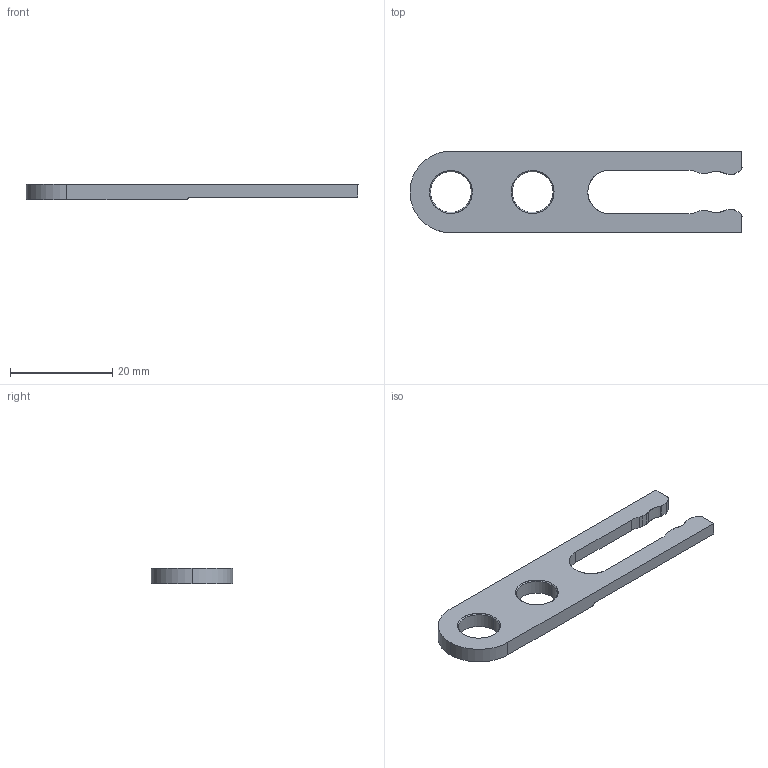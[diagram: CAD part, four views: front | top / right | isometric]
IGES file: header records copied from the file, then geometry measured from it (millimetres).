
Start section: START RECORD GO HERE.
Global section: file name: rm651608.igs; native system: DASSAULT SYSTEMES CATIA V5 R20 - www.3ds.com; preprocessor: CATIA Version 5 Release 20 ; author: Utente; organization: NB04-ASUS; date: 20201103.214936; units: millimetre
Bounding box: 65 x 16 x 3 mm (x, y, z)
Surface area: 2059 mm2 (no closed solid volume)
Topology: 0 solids, 0 shells, 43 faces, 238 edges, 238 vertices
Faces by surface type: revolution 28, plane 15
